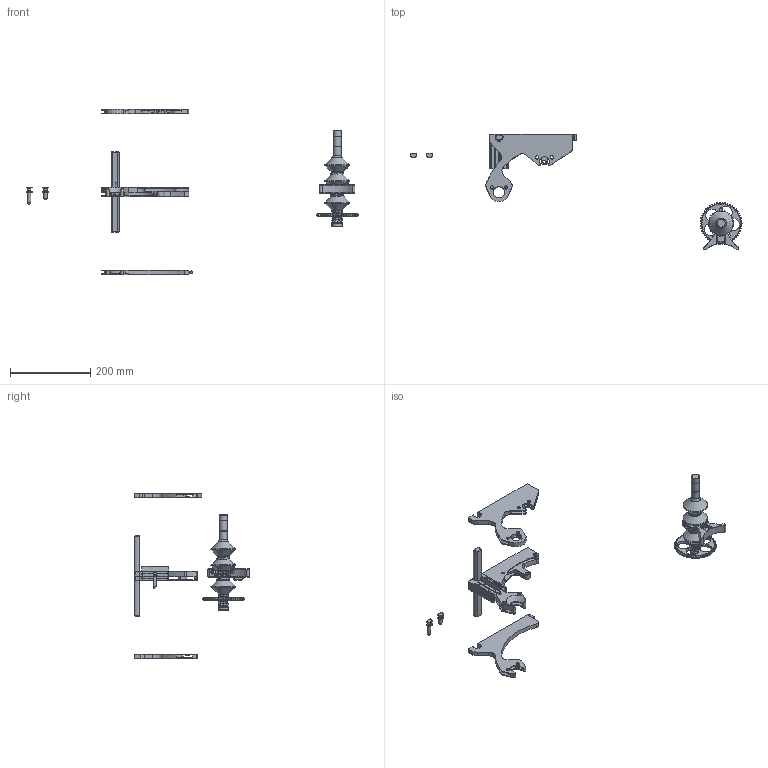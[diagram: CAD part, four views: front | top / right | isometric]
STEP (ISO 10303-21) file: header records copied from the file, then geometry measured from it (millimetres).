
FILE_DESCRIPTION(/* description */ (''),/* implementation_level */ '2;1');
FILE_NAME(/* name */ 'Respooler v231.step',/* time_stamp */ '2023-06-03T12:53:05-07:00',/* author */ (''),/* organization */ (''),/* preprocessor_version */ 'ST-DEVELOPER v19.2',/* originating_system */ 'Autodesk Translation Framework v12.6.0.85',/* authorisation */ '');
FILE_SCHEMA (('AUTOMOTIVE_DESIGN { 1 0 10303 214 3 1 1 }'));
Length unit declared in the file: millimetre
Products named in the file (6): Respooler; spur_gear_20t_7mm; double_idler; leadscrew; spindle; cradle_strut
Assembly tree (5 placements, depth 2):
  Respooler
    spur_gear_20t_7mm
    double_idler
    leadscrew
    spindle
    cradle_strut
Bounding box: 826.22 x 287.46 x 411.6 mm (x, y, z)
Volume: 852721.7 mm3; surface area: 378322.3 mm2
Topology: 20 solids, 20 shells, 2398 faces, 6599 edges, 4247 vertices
Faces by surface type: bspline 704, cylinder 665, plane 509, cone 471, torus 31, sphere 18
Full cylindrical faces by diameter (mm): 8.3 x25, 8.6 x1, 10 x1, 15.675 x3, 16 x2, 20 x5, 20.6 x1, 21.675 x1, 22 x2, 26 x2
Entity records: 154556 total; most frequent: CARTESIAN_POINT 98780, ORIENTED_EDGE 13218, DIRECTION 9713, EDGE_CURVE 6609, VERTEX_POINT 4247, AXIS2_PLACEMENT_3D 3672, EDGE_LOOP 2523, ADVANCED_FACE 2398
